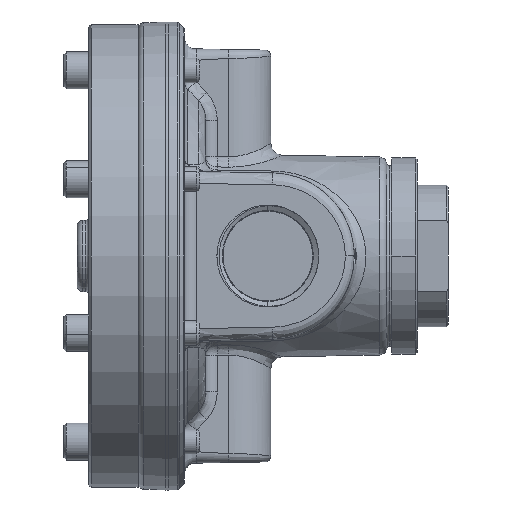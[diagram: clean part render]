
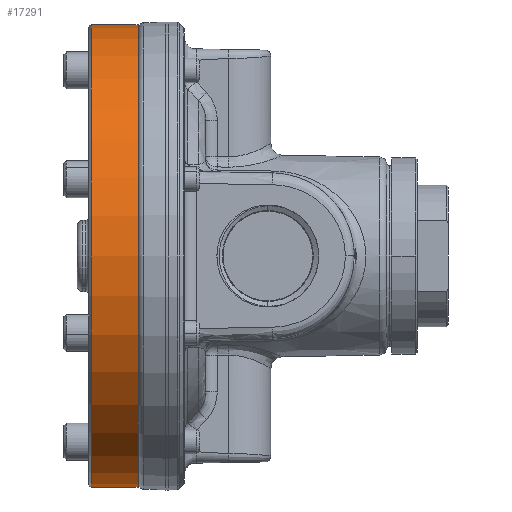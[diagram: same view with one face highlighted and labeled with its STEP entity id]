
A CAD part, left-side view. The second image highlights one B-rep face of the part: STEP entity #17291.
In plain terms, the highlighted cylindrical face has radius 59.373 mm (diameter 118.745 mm), a partial arc.
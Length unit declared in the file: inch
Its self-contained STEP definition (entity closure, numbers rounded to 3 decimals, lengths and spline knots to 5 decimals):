
#52 = AXIS2_PLACEMENT_3D ( 'NONE', #13111, #13112, #13113 ) ;
#56 = CIRCLE ( 'NONE', #52, 2.3375 ) ;
#267 = CIRCLE ( 'NONE', #279, 2.3375 ) ;
#279 = AXIS2_PLACEMENT_3D ( 'NONE', #13057, #13058, #13059 ) ;
#4473 = VECTOR ( 'NONE', #9884, 39.37008 ) ;
#4475 = VECTOR ( 'NONE', #9890, 39.37008 ) ;
#5956 = DIRECTION ( 'NONE',  ( 0., -1., 0. ) ) ;
#5958 = FACE_OUTER_BOUND ( 'NONE', #16939, .T. ) ;
#5959 = CARTESIAN_POINT ( 'NONE',  ( 0.00001, 0.9575, 0. ) ) ;
#5961 = CYLINDRICAL_SURFACE ( 'NONE', #13717, 2.3375 ) ;
#5962 = DIRECTION ( 'NONE',  ( 0., 0., -1. ) ) ;
#8634 = VERTEX_POINT ( 'NONE', #21416 ) ;
#8635 = VERTEX_POINT ( 'NONE', #21417 ) ;
#8663 = VERTEX_POINT ( 'NONE', #21445 ) ;
#8666 = VERTEX_POINT ( 'NONE', #21448 ) ;
#9876 = LINE ( 'NONE', #9877, #4475 ) ;
#9877 = CARTESIAN_POINT ( 'NONE',  ( 0.00001, 0.9575, -2.3375 ) ) ;
#9882 = LINE ( 'NONE', #9883, #4473 ) ;
#9883 = CARTESIAN_POINT ( 'NONE',  ( 0.00001, 0.9575, 2.3375 ) ) ;
#9884 = DIRECTION ( 'NONE',  ( 0., -1., 0. ) ) ;
#9890 = DIRECTION ( 'NONE',  ( 0., -1., 0. ) ) ;
#13057 = CARTESIAN_POINT ( 'NONE',  ( 0.00001, 0.3425, 0. ) ) ;
#13058 = DIRECTION ( 'NONE',  ( 0., 1., 0. ) ) ;
#13059 = DIRECTION ( 'NONE',  ( 0., 0., 1. ) ) ;
#13111 = CARTESIAN_POINT ( 'NONE',  ( 0.00001, 0.8175, 0. ) ) ;
#13112 = DIRECTION ( 'NONE',  ( 0., -1., 0. ) ) ;
#13113 = DIRECTION ( 'NONE',  ( 0., 0., 1. ) ) ;
#13717 = AXIS2_PLACEMENT_3D ( 'NONE', #5959, #5956, #5962 ) ;
#14322 = EDGE_CURVE ( 'NONE', #8666, #8663, #267, .T. ) ;
#14340 = EDGE_CURVE ( 'NONE', #8635, #8634, #56, .T. ) ;
#15098 = ORIENTED_EDGE ( 'NONE', *, *, #23406, .F. ) ;
#15099 = ORIENTED_EDGE ( 'NONE', *, *, #14340, .T. ) ;
#15100 = ORIENTED_EDGE ( 'NONE', *, *, #23408, .T. ) ;
#15101 = ORIENTED_EDGE ( 'NONE', *, *, #14322, .T. ) ;
#16939 = EDGE_LOOP ( 'NONE', ( #15098, #15099, #15100, #15101 ) ) ;
#17291 = ADVANCED_FACE ( 'NONE', ( #5958 ), #5961, .T. ) ;
#21416 = CARTESIAN_POINT ( 'NONE',  ( 0.00001, 0.8175, -2.3375 ) ) ;
#21417 = CARTESIAN_POINT ( 'NONE',  ( 0.00001, 0.8175, 2.3375 ) ) ;
#21445 = CARTESIAN_POINT ( 'NONE',  ( 0.00001, 0.3425, 2.3375 ) ) ;
#21448 = CARTESIAN_POINT ( 'NONE',  ( 0.00001, 0.3425, -2.3375 ) ) ;
#23406 = EDGE_CURVE ( 'NONE', #8635, #8663, #9882, .T. ) ;
#23408 = EDGE_CURVE ( 'NONE', #8634, #8666, #9876, .T. ) ;
